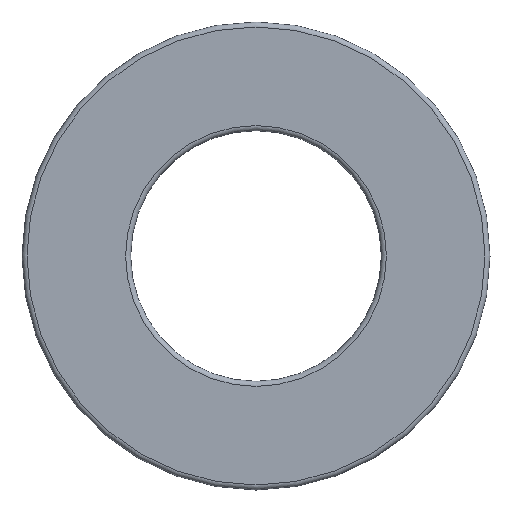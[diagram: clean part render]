
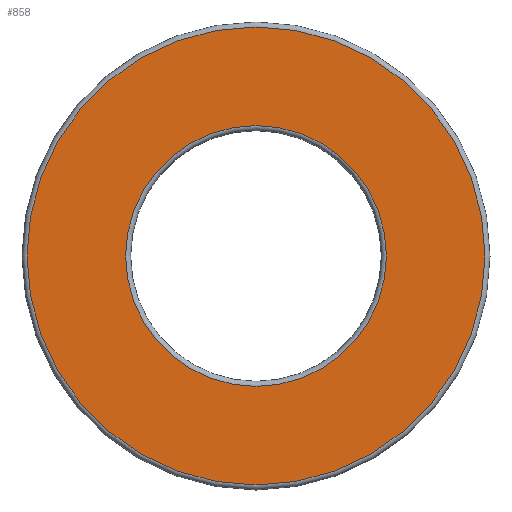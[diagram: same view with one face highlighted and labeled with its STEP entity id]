
A CAD part, left-side view. The second image highlights one B-rep face of the part: STEP entity #858.
In plain terms, the highlighted planar face has unit normal (-1, 0, 0).
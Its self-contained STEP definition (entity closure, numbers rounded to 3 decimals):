
#53=FACE_OUTER_BOUND('',#155,.T.);
#81=PLANE('',#1002);
#125=FACE_BOUND('',#156,.T.);
#155=EDGE_LOOP('',(#692));
#156=EDGE_LOOP('',(#693));
#254=CIRCLE('',#998,13.7);
#257=CIRCLE('',#1003,7.8);
#395=VERTEX_POINT('',#1592);
#398=VERTEX_POINT('',#1602);
#507=EDGE_CURVE('',#395,#395,#254,.T.);
#511=EDGE_CURVE('',#398,#398,#257,.T.);
#692=ORIENTED_EDGE('',*,*,#507,.F.);
#693=ORIENTED_EDGE('',*,*,#511,.F.);
#858=ADVANCED_FACE('',(#53,#125),#81,.T.);
#998=AXIS2_PLACEMENT_3D('',#1594,#1250,#1251);
#1002=AXIS2_PLACEMENT_3D('',#1601,#1259,#1260);
#1003=AXIS2_PLACEMENT_3D('',#1603,#1261,#1262);
#1250=DIRECTION('center_axis',(1.,0.,0.));
#1251=DIRECTION('ref_axis',(0.,-1.,0.));
#1259=DIRECTION('center_axis',(-1.,0.,0.));
#1260=DIRECTION('ref_axis',(0.,0.,1.));
#1261=DIRECTION('center_axis',(-1.,0.,0.));
#1262=DIRECTION('ref_axis',(0.,-1.,0.));
#1592=CARTESIAN_POINT('',(0.,0.,13.7));
#1594=CARTESIAN_POINT('Origin',(0.,0.,0.));
#1601=CARTESIAN_POINT('Origin',(0.,10.75,0.));
#1602=CARTESIAN_POINT('',(0.,0.,7.8));
#1603=CARTESIAN_POINT('Origin',(0.,0.,0.));
